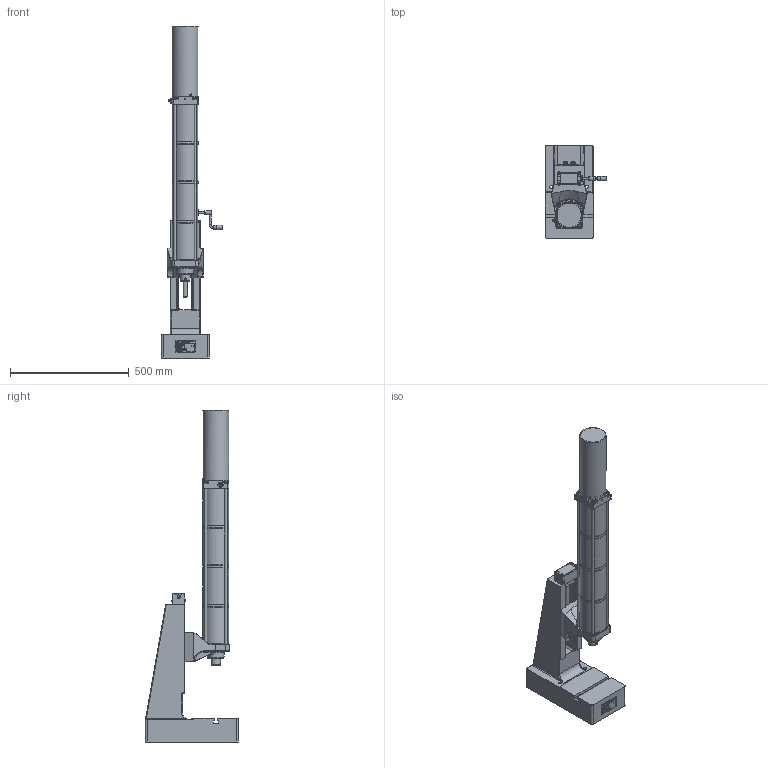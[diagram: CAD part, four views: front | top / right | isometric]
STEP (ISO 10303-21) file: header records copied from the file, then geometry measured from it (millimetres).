
FILE_DESCRIPTION(/* description */ ('Bausatz Ständer T4N HV-OST'),/* implementation_level */ '2;1');
FILE_NAME(/* name */ 'B:\02_CAD_oeffentlich\CAD_3D_oeffentlich_step\Druckluftpresse\DRP_1700_120_130.stp',/* time_stamp */ '2017-08-25T09:41:04+02:00',/* author */ ('Finsterle'),/* organization */ (''),/* preprocessor_version */ 'ST-DEVELOPER v16.1',/* originating_system */ 'Autodesk Inventor 2016',/* authorisation */ '');
FILE_SCHEMA (('AUTOMOTIVE_DESIGN { 1 0 10303 214 3 1 1 }'));
Products named in the file (5): ENG-000753-1_V; ENG-001118_V; HBF-000760; ENG-000755; HBF-001069_V
Assembly tree (5 placements, depth 2):
  HBF-001069_V
    ENG-000753-1_V
    ENG-001118_V
    HBF-000760
    ENG-000755  x2
Bounding box: 259.79 x 393.8 x 1397.84 mm (x, y, z)
Volume: 12722990.6 mm3; surface area: 1940407.7 mm2
Topology: 6 solids, 16 shells, 7637 faces, 20686 edges, 13512 vertices
Faces by surface type: plane 4608, bspline 2104, cylinder 485, cone 246, torus 119, sphere 75
Full cylindrical faces by diameter (mm): 1 x1, 2 x1, 2.4 x3, 2.459 x2, 3 x7, 3.242 x7, 3.5 x2, 3.65 x4, 4 x6, 4.134 x1, 4.5 x4, 4.917 x6, 5 x3, 6.2 x4, 6.5 x2, 6.647 x1, 8 x7, 8.4 x1, 8.5 x1, 10 x7, 10.02 x1, 10.106 x2, 10.5 x12, 11.8 x2, 12 x7, 13 x4, 13.5 x4, 14 x3, 14.376 x2, 14.95 x3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
Entity records: 259160 total; most frequent: CARTESIAN_POINT 76088, ORIENTED_EDGE 40142, DIRECTION 28154, EDGE_CURVE 20058, LINE 13986, VECTOR 13986, VERTEX_POINT 13382, EDGE_LOOP 8634
